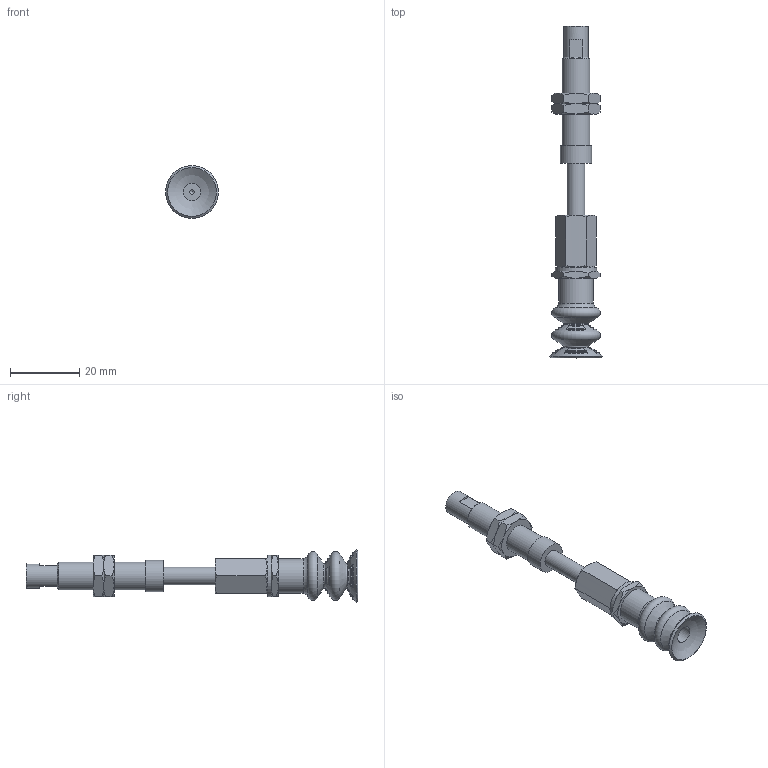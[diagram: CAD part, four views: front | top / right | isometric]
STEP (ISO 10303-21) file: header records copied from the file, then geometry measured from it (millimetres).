
FILE_DESCRIPTION(('STEP AP203'),'1');
FILE_NAME('.stp','2025-08-27T02:15:06',(' '),(' '),'Spatial InterOp 3D',' ',' ');
FILE_SCHEMA(('CONFIG_CONTROL_DESIGN'));
Length unit declared in the file: millimetre
Products named in the file (7): BNABPCTS-15-15-※; ADAPTER; NAPCTS-10-15-MBODY; Adapter_napc-15-T; Nut napc_s-15-15; NAPCTS-15-15-FBODY; BPCG-15-※
Assembly tree (7 placements, depth 2):
  BNABPCTS-15-15-※
    ADAPTER
    NAPCTS-10-15-MBODY
    Adapter_napc-15-T
    Nut napc_s-15-15  x2
    NAPCTS-15-15-FBODY
    BPCG-15-※
Bounding box: 15.2 x 95.7 x 15.2 mm (x, y, z)
Volume: 6056.5 mm3; surface area: 6139.5 mm2
Topology: 7 solids, 7 shells, 220 faces, 658 edges, 423 vertices
Faces by surface type: cone 63, sphere 58, plane 48, torus 34, cylinder 17
Full cylindrical faces by diameter (mm): 1.25 x1, 4.134 x2, 5 x7, 7 x1, 7.188 x2, 8 x1, 9 x1, 10 x1, 12 x1
Entity records: 6307 total; most frequent: CARTESIAN_POINT 1857, DIRECTION 902, ORIENTED_EDGE 758, AXIS2_PLACEMENT_3D 438, EDGE_CURVE 379, EDGE_LOOP 276, VERTEX_POINT 266, CIRCLE 233
